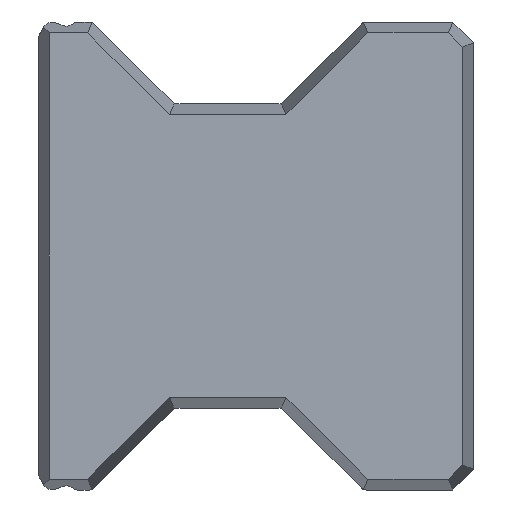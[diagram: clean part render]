
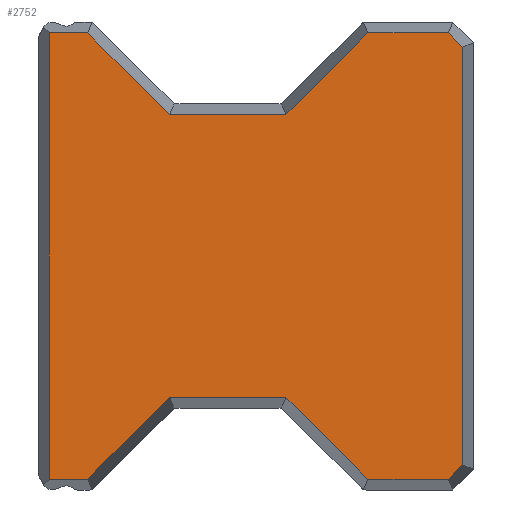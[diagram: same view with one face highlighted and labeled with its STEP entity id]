
A CAD part, left-side view. The second image highlights one B-rep face of the part: STEP entity #2752.
In plain terms, the highlighted planar face has unit normal (-1, 0, 0).
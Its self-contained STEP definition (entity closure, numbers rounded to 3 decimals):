
#524=ORIENTED_EDGE('',*,*,#1170,.T.);
#525=ORIENTED_EDGE('',*,*,#1061,.T.);
#526=ORIENTED_EDGE('',*,*,#1171,.T.);
#527=ORIENTED_EDGE('',*,*,#1172,.T.);
#528=ORIENTED_EDGE('',*,*,#1049,.T.);
#529=ORIENTED_EDGE('',*,*,#1040,.T.);
#530=ORIENTED_EDGE('',*,*,#1173,.T.);
#531=ORIENTED_EDGE('',*,*,#1034,.T.);
#532=ORIENTED_EDGE('',*,*,#1174,.T.);
#533=ORIENTED_EDGE('',*,*,#1175,.T.);
#534=ORIENTED_EDGE('',*,*,#1176,.T.);
#535=ORIENTED_EDGE('',*,*,#1177,.T.);
#536=ORIENTED_EDGE('',*,*,#1053,.T.);
#537=ORIENTED_EDGE('',*,*,#1058,.T.);
#1034=EDGE_CURVE('',#1370,#1369,#1635,.T.);
#1040=EDGE_CURVE('',#1375,#1374,#1640,.T.);
#1049=EDGE_CURVE('',#1382,#1375,#1645,.T.);
#1053=EDGE_CURVE('',#1385,#1384,#1648,.T.);
#1058=EDGE_CURVE('',#1384,#1387,#1652,.T.);
#1061=EDGE_CURVE('',#1390,#1389,#1654,.T.);
#1170=EDGE_CURVE('',#1387,#1390,#1704,.T.);
#1171=EDGE_CURVE('',#1389,#1482,#1705,.T.);
#1172=EDGE_CURVE('',#1482,#1382,#1706,.T.);
#1173=EDGE_CURVE('',#1374,#1370,#1707,.T.);
#1174=EDGE_CURVE('',#1369,#1483,#1708,.T.);
#1175=EDGE_CURVE('',#1483,#1484,#1709,.T.);
#1176=EDGE_CURVE('',#1484,#1485,#1710,.T.);
#1177=EDGE_CURVE('',#1485,#1385,#1711,.T.);
#1369=VERTEX_POINT('',#4327);
#1370=VERTEX_POINT('',#4329);
#1374=VERTEX_POINT('',#4339);
#1375=VERTEX_POINT('',#4341);
#1382=VERTEX_POINT('',#4358);
#1384=VERTEX_POINT('',#4364);
#1385=VERTEX_POINT('',#4366);
#1387=VERTEX_POINT('',#4373);
#1389=VERTEX_POINT('',#4379);
#1390=VERTEX_POINT('',#4381);
#1482=VERTEX_POINT('',#4596);
#1483=VERTEX_POINT('',#4600);
#1484=VERTEX_POINT('',#4602);
#1485=VERTEX_POINT('',#4604);
#1635=LINE('',#4328,#1785);
#1640=LINE('',#4340,#1790);
#1645=LINE('',#4357,#1795);
#1648=LINE('',#4365,#1798);
#1652=LINE('',#4374,#1802);
#1654=LINE('',#4380,#1804);
#1704=LINE('',#4594,#1854);
#1705=LINE('',#4595,#1855);
#1706=LINE('',#4597,#1856);
#1707=LINE('',#4598,#1857);
#1708=LINE('',#4599,#1858);
#1709=LINE('',#4601,#1859);
#1710=LINE('',#4603,#1860);
#1711=LINE('',#4605,#1861);
#1785=VECTOR('',#3382,1000.);
#1790=VECTOR('',#3391,1000.);
#1795=VECTOR('',#3406,1000.);
#1798=VECTOR('',#3413,1000.);
#1802=VECTOR('',#3421,1000.);
#1804=VECTOR('',#3427,1000.);
#1854=VECTOR('',#3621,1000.);
#1855=VECTOR('',#3622,1000.);
#1856=VECTOR('',#3623,1000.);
#1857=VECTOR('',#3624,1000.);
#1858=VECTOR('',#3625,1000.);
#1859=VECTOR('',#3626,1000.);
#1860=VECTOR('',#3627,1000.);
#1861=VECTOR('',#3628,1000.);
#1975=EDGE_LOOP('',(#524,#525,#526,#527,#528,#529,#530,#531,#532,#533,#534,
#535,#536,#537));
#2347=FACE_BOUND('',#1975,.T.);
#2669=PLANE('',#3032);
#2752=ADVANCED_FACE('',(#2347),#2669,.F.);
#3032=AXIS2_PLACEMENT_3D('',#4593,#3619,#3620);
#3382=DIRECTION('',(0.,-0.707,-0.707));
#3391=DIRECTION('',(0.,-0.707,0.707));
#3406=DIRECTION('',(0.,-1.,0.));
#3413=DIRECTION('',(0.,1.,0.));
#3421=DIRECTION('',(0.,0.707,-0.707));
#3427=DIRECTION('',(0.,0.707,0.707));
#3619=DIRECTION('',(1.,0.,0.));
#3620=DIRECTION('',(0.,0.,-1.));
#3621=DIRECTION('',(0.,1.,0.));
#3622=DIRECTION('',(0.,1.,0.));
#3623=DIRECTION('',(0.,0.,-1.));
#3624=DIRECTION('',(0.,-1.,0.));
#3625=DIRECTION('',(0.,-1.,0.));
#3626=DIRECTION('',(0.,-0.707,0.707));
#3627=DIRECTION('',(0.,0.,1.));
#3628=DIRECTION('',(0.,0.707,0.707));
#4327=CARTESIAN_POINT('',(0.,7.674,-16.207));
#4328=CARTESIAN_POINT('',(0.,11.94,-11.94));
#4329=CARTESIAN_POINT('',(0.,13.624,-10.257));
#4339=CARTESIAN_POINT('',(0.,22.076,-10.257));
#4340=CARTESIAN_POINT('',(0.,5.91,5.91));
#4341=CARTESIAN_POINT('',(0.,28.026,-16.207));
#4357=CARTESIAN_POINT('',(0.,0.,-16.207));
#4358=CARTESIAN_POINT('',(0.,30.807,-16.207));
#4364=CARTESIAN_POINT('',(0.,7.674,16.207));
#4365=CARTESIAN_POINT('',(0.,0.,16.207));
#4366=CARTESIAN_POINT('',(0.,1.829,16.207));
#4373=CARTESIAN_POINT('',(0.,13.624,10.257));
#4374=CARTESIAN_POINT('',(0.,11.94,11.94));
#4379=CARTESIAN_POINT('',(0.,28.026,16.207));
#4380=CARTESIAN_POINT('',(0.,5.91,-5.91));
#4381=CARTESIAN_POINT('',(0.,22.076,10.257));
#4593=CARTESIAN_POINT('',(0.,0.,0.));
#4594=CARTESIAN_POINT('',(0.,0.,10.257));
#4595=CARTESIAN_POINT('',(0.,0.,16.207));
#4596=CARTESIAN_POINT('',(0.,30.807,16.207));
#4597=CARTESIAN_POINT('',(0.,30.807,0.));
#4598=CARTESIAN_POINT('',(0.,0.,-10.257));
#4599=CARTESIAN_POINT('',(0.,0.,-16.207));
#4600=CARTESIAN_POINT('',(0.,1.829,-16.207));
#4601=CARTESIAN_POINT('',(0.,-7.189,-7.189));
#4602=CARTESIAN_POINT('',(0.,0.793,-15.171));
#4603=CARTESIAN_POINT('',(0.,0.793,0.));
#4604=CARTESIAN_POINT('',(0.,0.793,15.171));
#4605=CARTESIAN_POINT('',(0.,-7.189,7.189));
